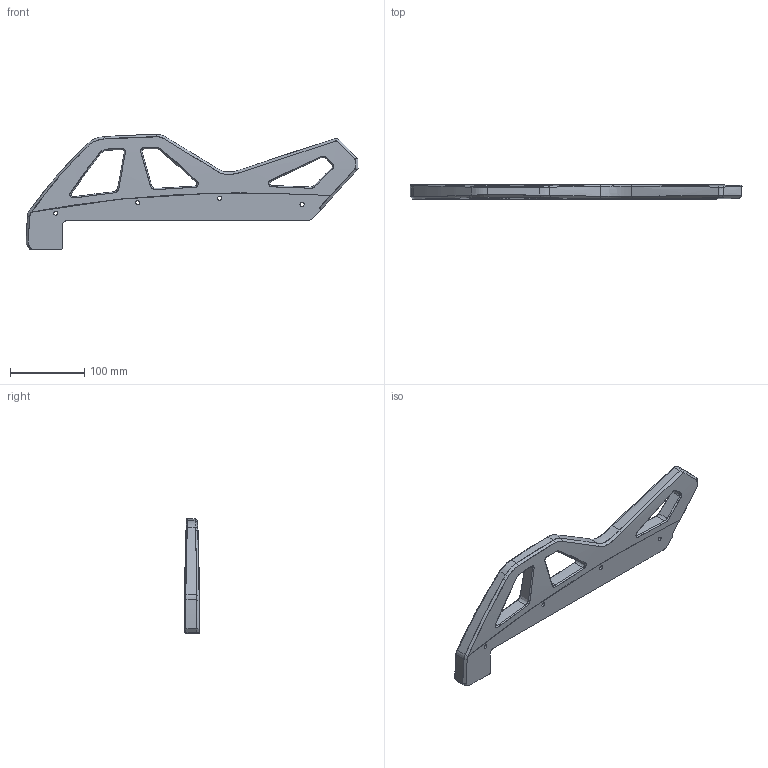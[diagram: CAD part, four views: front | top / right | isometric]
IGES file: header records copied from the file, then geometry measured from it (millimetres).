
Start section:  Autodesk DirectConnect version 5.0.523.0 ---- IGES version 5.3
Global section: file name: /Users/alehnhar/Desktop/Guitar Misc/Model/GuitarWing.igs; native system: Autodesk DirectConnect 5.0.523.0; preprocessor: 5.0.523.0; author: alehnhar; organization: Unknown; date: 20120604.043232; units: inch
Bounding box: 446.56 x 19.05 x 154.32 mm (x, y, z)
Surface area: 94808 mm2 (no closed solid volume)
Topology: 0 solids, 0 shells, 169 faces, 2010 edges, 2010 vertices
Faces by surface type: bspline 169
